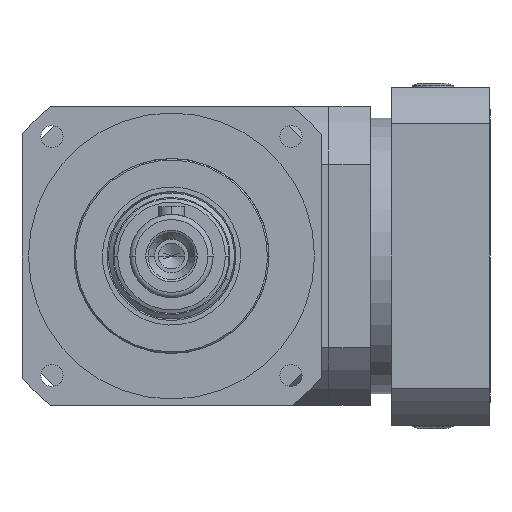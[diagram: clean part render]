
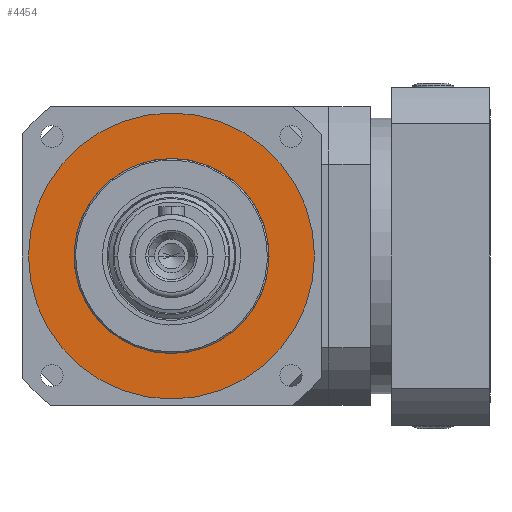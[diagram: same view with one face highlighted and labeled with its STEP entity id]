
A CAD part, left-side view. The second image highlights one B-rep face of the part: STEP entity #4454.
In plain terms, the highlighted planar face has unit normal (-1, 0, 0).
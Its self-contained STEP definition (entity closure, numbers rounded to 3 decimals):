
#352 = DIRECTION ( 'NONE',  ( -1., 0., 0. ) ) ;
#952 = DIRECTION ( 'NONE',  ( -1., 0., 0. ) ) ;
#1215 = AXIS2_PLACEMENT_3D ( 'NONE', #21616, #9096, #23721 ) ;
#1563 = ORIENTED_EDGE ( 'NONE', *, *, #4468, .F. ) ;
#2025 = CARTESIAN_POINT ( 'NONE',  ( -67., 0., 55. ) ) ;
#3072 = CIRCLE ( 'NONE', #1215, 37.5 ) ;
#3905 = ORIENTED_EDGE ( 'NONE', *, *, #25069, .T. ) ;
#4454 = ADVANCED_FACE ( 'NONE', ( #15450, #19072 ), #9030, .F. ) ;
#4468 = EDGE_CURVE ( 'NONE', #23656, #12925, #3072, .T. ) ;
#5414 = AXIS2_PLACEMENT_3D ( 'NONE', #25628, #11093, #25709 ) ;
#5580 = ORIENTED_EDGE ( 'NONE', *, *, #6276, .F. ) ;
#6276 = EDGE_CURVE ( 'NONE', #12925, #23656, #13059, .T. ) ;
#8796 = CIRCLE ( 'NONE', #12227, 55. ) ;
#9030 = PLANE ( 'NONE',  #5414 ) ;
#9096 = DIRECTION ( 'NONE',  ( -1., 0., 0. ) ) ;
#9231 = CARTESIAN_POINT ( 'NONE',  ( -67., 0., 37.5 ) ) ;
#9314 = CARTESIAN_POINT ( 'NONE',  ( -67., 0., -55. ) ) ;
#11093 = DIRECTION ( 'NONE',  ( 1., 0., 0. ) ) ;
#11822 = CARTESIAN_POINT ( 'NONE',  ( -67., 0., 0. ) ) ;
#12227 = AXIS2_PLACEMENT_3D ( 'NONE', #11822, #26429, #13914 ) ;
#12814 = CARTESIAN_POINT ( 'NONE',  ( -67., 0., 0. ) ) ;
#12925 = VERTEX_POINT ( 'NONE', #9231 ) ;
#13059 = CIRCLE ( 'NONE', #17166, 37.5 ) ;
#13433 = CARTESIAN_POINT ( 'NONE',  ( -67., 0., 0. ) ) ;
#13914 = DIRECTION ( 'NONE',  ( 0., 0., 1. ) ) ;
#14729 = VERTEX_POINT ( 'NONE', #2025 ) ;
#14925 = DIRECTION ( 'NONE',  ( 0., 0., 1. ) ) ;
#15450 = FACE_BOUND ( 'NONE', #21936, .T. ) ;
#15531 = DIRECTION ( 'NONE',  ( 0., 0., 1. ) ) ;
#15824 = AXIS2_PLACEMENT_3D ( 'NONE', #12814, #352, #14925 ) ;
#16624 = EDGE_LOOP ( 'NONE', ( #3905, #19924 ) ) ;
#17166 = AXIS2_PLACEMENT_3D ( 'NONE', #13433, #952, #15531 ) ;
#17491 = CIRCLE ( 'NONE', #15824, 55. ) ;
#19072 = FACE_OUTER_BOUND ( 'NONE', #16624, .T. ) ;
#19924 = ORIENTED_EDGE ( 'NONE', *, *, #22622, .T. ) ;
#21616 = CARTESIAN_POINT ( 'NONE',  ( -67., 0., 0. ) ) ;
#21936 = EDGE_LOOP ( 'NONE', ( #5580, #1563 ) ) ;
#21989 = VERTEX_POINT ( 'NONE', #9314 ) ;
#22622 = EDGE_CURVE ( 'NONE', #21989, #14729, #8796, .T. ) ;
#23656 = VERTEX_POINT ( 'NONE', #24368 ) ;
#23721 = DIRECTION ( 'NONE',  ( 0., 0., 1. ) ) ;
#24368 = CARTESIAN_POINT ( 'NONE',  ( -67., 0., -37.5 ) ) ;
#25069 = EDGE_CURVE ( 'NONE', #14729, #21989, #17491, .T. ) ;
#25628 = CARTESIAN_POINT ( 'NONE',  ( -67., 0., 0. ) ) ;
#25709 = DIRECTION ( 'NONE',  ( 0., 0., -1. ) ) ;
#26429 = DIRECTION ( 'NONE',  ( -1., 0., 0. ) ) ;
